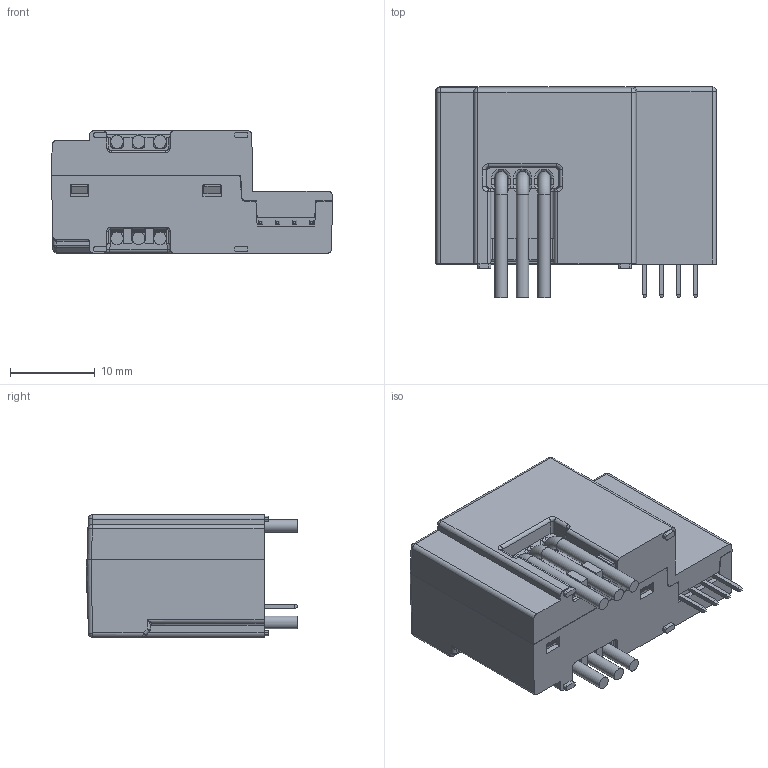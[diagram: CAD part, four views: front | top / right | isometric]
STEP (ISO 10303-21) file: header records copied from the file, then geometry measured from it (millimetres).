
FILE_DESCRIPTION(/* description */ (''),/* implementation_level */ '2;1');
FILE_NAME(/* name */ 'STB-100LA-S888.stp',/* time_stamp */ '2021-06-29T17:41:10+08:00',/* author */ (''),/* organization */ (''),/* preprocessor_version */ 'ST-DEVELOPER v15',/* originating_system */ 'SIEMENS PLM Software NX 8.5',/* authorisation */ '');
FILE_SCHEMA (('AUTOMOTIVE_DESIGN { 1 0 10303 214 3 1 1 1 }'));
Length unit declared in the file: millimetre
Products named in the file (1): Gong37CC690Efu02
Bounding box: 33.2 x 25.04 x 14.46 mm (x, y, z)
Volume: 6199.1 mm3; surface area: 6318.7 mm2
Topology: 4 solids, 6 shells, 747 faces, 1959 edges, 1218 vertices
Faces by surface type: plane 378, cylinder 223, bspline 96, torus 40, sphere 10
Full cylindrical faces by diameter (mm): 0.8 x4, 1.5 x9, 1.6 x3
Entity records: 24356 total; most frequent: CARTESIAN_POINT 6418, ORIENTED_EDGE 3804, DIRECTION 3547, EDGE_CURVE 1902, VERTEX_POINT 1206, AXIS2_PLACEMENT_3D 1186, LINE 1175, VECTOR 1175
